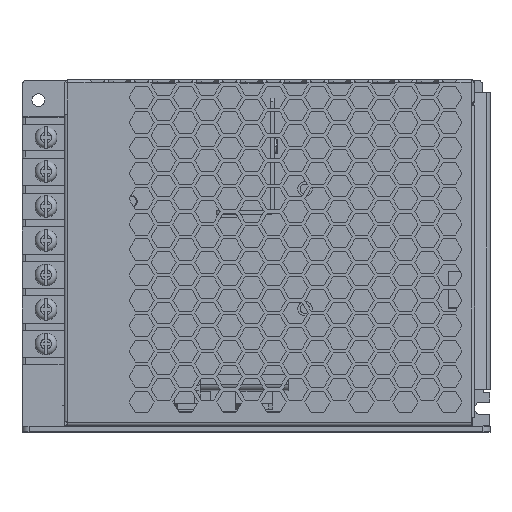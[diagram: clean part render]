
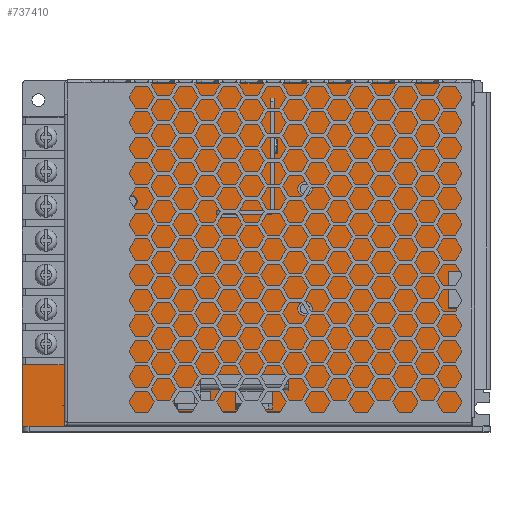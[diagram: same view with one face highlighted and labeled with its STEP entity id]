
A CAD part, top view. The second image highlights one B-rep face of the part: STEP entity #737410.
In plain terms, the highlighted planar face has unit normal (0, 0, 1).
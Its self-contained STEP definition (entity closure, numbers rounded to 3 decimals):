
#735620=CARTESIAN_POINT('',(0.,0.,0.));
#735630=DIRECTION('',(0.,0.,1.));
#735640=DIRECTION('',(1.,0.,0.));
#735650=AXIS2_PLACEMENT_3D('',#735620,#735630,#735640);
#735660=PLANE('',#735650);
#735670=CARTESIAN_POINT('',(-287.934,290.025,0.));
#735680=DIRECTION('',(-1.,0.,0.));
#735690=VECTOR('',#735680,1.);
#735700=LINE('',#735670,#735690);
#735710=CARTESIAN_POINT('',(-287.934,290.025,0.));
#735720=VERTEX_POINT('',#735710);
#735730=CARTESIAN_POINT('',(-299.417,290.025,0.));
#735740=VERTEX_POINT('',#735730);
#735750=EDGE_CURVE('',#735720,#735740,#735700,.T.);
#735760=ORIENTED_EDGE('',*,*,#735750,.T.);
#735770=CARTESIAN_POINT('',(-287.934,290.025,0.));
#735780=DIRECTION('',(0.,1.,0.));
#735790=VECTOR('',#735780,1.);
#735800=LINE('',#735770,#735790);
#735810=CARTESIAN_POINT('',(-287.934,299.025,0.));
#735820=VERTEX_POINT('',#735810);
#735830=EDGE_CURVE('',#735720,#735820,#735800,.T.);
#735840=ORIENTED_EDGE('',*,*,#735830,.F.);
#735850=CARTESIAN_POINT('',(-287.934,299.025,0.));
#735860=DIRECTION('',(1.,0.,0.));
#735870=VECTOR('',#735860,1.);
#735880=LINE('',#735850,#735870);
#735890=CARTESIAN_POINT('',(-177.417,299.025,0.));
#735900=VERTEX_POINT('',#735890);
#735910=EDGE_CURVE('',#735820,#735900,#735880,.T.);
#735920=ORIENTED_EDGE('',*,*,#735910,.F.);
#735930=CARTESIAN_POINT('',(-177.417,299.025,0.));
#735940=DIRECTION('',(0.,-1.,0.));
#735950=VECTOR('',#735940,1.);
#735960=LINE('',#735930,#735950);
#735970=CARTESIAN_POINT('',(-177.417,204.625,0.));
#735980=VERTEX_POINT('',#735970);
#735990=EDGE_CURVE('',#735900,#735980,#735960,.T.);
#736000=ORIENTED_EDGE('',*,*,#735990,.F.);
#736010=CARTESIAN_POINT('',(-177.417,204.625,0.));
#736020=DIRECTION('',(-1.,0.,0.));
#736030=VECTOR('',#736020,1.);
#736040=LINE('',#736010,#736030);
#736050=CARTESIAN_POINT('',(-187.222,204.625,0.));
#736060=VERTEX_POINT('',#736050);
#736070=EDGE_CURVE('',#735980,#736060,#736040,.T.);
#736080=ORIENTED_EDGE('',*,*,#736070,.F.);
#736090=CARTESIAN_POINT('',(-187.222,206.435,0.));
#736100=DIRECTION('',(0.,-1.,0.));
#736110=VECTOR('',#736100,1.);
#736120=LINE('',#736090,#736110);
#736130=CARTESIAN_POINT('',(-187.222,206.435,0.));
#736140=VERTEX_POINT('',#736130);
#736150=EDGE_CURVE('',#736140,#736060,#736120,.T.);
#736160=ORIENTED_EDGE('',*,*,#736150,.T.);
#736170=CARTESIAN_POINT('',(-194.112,206.435,0.));
#736180=DIRECTION('',(1.,0.,0.));
#736190=VECTOR('',#736180,1.);
#736200=LINE('',#736170,#736190);
#736210=CARTESIAN_POINT('',(-194.112,206.435,0.));
#736220=VERTEX_POINT('',#736210);
#736230=EDGE_CURVE('',#736220,#736140,#736200,.T.);
#736240=ORIENTED_EDGE('',*,*,#736230,.T.);
#736250=CARTESIAN_POINT('',(-194.112,204.625,0.));
#736260=DIRECTION('',(0.,1.,0.));
#736270=VECTOR('',#736260,1.);
#736280=LINE('',#736250,#736270);
#736290=CARTESIAN_POINT('',(-194.112,204.625,0.));
#736300=VERTEX_POINT('',#736290);
#736310=EDGE_CURVE('',#736300,#736220,#736280,.T.);
#736320=ORIENTED_EDGE('',*,*,#736310,.T.);
#736330=CARTESIAN_POINT('',(-194.112,204.625,0.));
#736340=DIRECTION('',(-1.,0.,0.));
#736350=VECTOR('',#736340,1.);
#736360=LINE('',#736330,#736350);
#736370=CARTESIAN_POINT('',(-224.167,204.625,0.));
#736380=VERTEX_POINT('',#736370);
#736390=EDGE_CURVE('',#736300,#736380,#736360,.T.);
#736400=ORIENTED_EDGE('',*,*,#736390,.F.);
#736410=CARTESIAN_POINT('',(-224.167,208.525,0.));
#736420=DIRECTION('',(0.,-1.,0.));
#736430=VECTOR('',#736420,1.);
#736440=LINE('',#736410,#736430);
#736450=CARTESIAN_POINT('',(-224.167,208.525,0.));
#736460=VERTEX_POINT('',#736450);
#736470=EDGE_CURVE('',#736460,#736380,#736440,.T.);
#736480=ORIENTED_EDGE('',*,*,#736470,.T.);
#736490=CARTESIAN_POINT('',(-264.167,208.525,0.));
#736500=DIRECTION('',(1.,0.,0.));
#736510=VECTOR('',#736500,1.);
#736520=LINE('',#736490,#736510);
#736530=CARTESIAN_POINT('',(-264.167,208.525,0.));
#736540=VERTEX_POINT('',#736530);
#736550=EDGE_CURVE('',#736540,#736460,#736520,.T.);
#736560=ORIENTED_EDGE('',*,*,#736550,.T.);
#736570=CARTESIAN_POINT('',(-264.167,204.625,0.));
#736580=DIRECTION('',(0.,1.,0.));
#736590=VECTOR('',#736580,1.);
#736600=LINE('',#736570,#736590);
#736610=CARTESIAN_POINT('',(-264.167,204.625,0.));
#736620=VERTEX_POINT('',#736610);
#736630=EDGE_CURVE('',#736620,#736540,#736600,.T.);
#736640=ORIENTED_EDGE('',*,*,#736630,.T.);
#736650=CARTESIAN_POINT('',(-264.167,204.625,0.));
#736660=DIRECTION('',(-1.,0.,0.));
#736670=VECTOR('',#736660,1.);
#736680=LINE('',#736650,#736670);
#736690=CARTESIAN_POINT('',(-299.417,204.625,0.));
#736700=VERTEX_POINT('',#736690);
#736710=EDGE_CURVE('',#736620,#736700,#736680,.T.);
#736720=ORIENTED_EDGE('',*,*,#736710,.F.);
#736730=CARTESIAN_POINT('',(-299.417,204.625,0.));
#736740=DIRECTION('',(0.,1.,0.));
#736750=VECTOR('',#736740,1.);
#736760=LINE('',#736730,#736750);
#736770=EDGE_CURVE('',#736700,#735740,#736760,.T.);
#736780=ORIENTED_EDGE('',*,*,#736770,.F.);
#736790=EDGE_LOOP('',(#736780,#736720,#736640,#736560,#736480,#736400,
#736320,#736240,#736160,#736080,#736000,#735920,#735840,#735760));
#736800=FACE_OUTER_BOUND('',#736790,.T.);
#736810=CARTESIAN_POINT('',(-269.667,266.525,
0.));
#736820=DIRECTION('',(0.,0.,-1.));
#736830=DIRECTION('',(1.,0.,0.));
#736840=AXIS2_PLACEMENT_3D('',#736810,#736820,#736830);
#736850=CIRCLE('',#736840,1.75);
#736860=CARTESIAN_POINT('',(-271.417,266.525,0.));
#736870=VERTEX_POINT('',#736860);
#736880=CARTESIAN_POINT('',(-267.917,266.525,
0.));
#736890=VERTEX_POINT('',#736880);
#736900=EDGE_CURVE('',#736870,#736890,#736850,.T.);
#736910=ORIENTED_EDGE('',*,*,#736900,.T.);
#736920=EDGE_CURVE('',#736890,#736870,#736850,.T.);
#736930=ORIENTED_EDGE('',*,*,#736920,.T.);
#736940=EDGE_LOOP('',(#736930,#736910));
#736950=FACE_BOUND('',#736940,.T.);
#736960=CARTESIAN_POINT('',(-221.667,237.025,
0.));
#736970=DIRECTION('',(0.,0.,-1.));
#736980=DIRECTION('',(1.,0.,0.));
#736990=AXIS2_PLACEMENT_3D('',#736960,#736970,#736980);
#737000=CIRCLE('',#736990,2.);
#737010=CARTESIAN_POINT('',(-219.667,237.025,0.));
#737020=VERTEX_POINT('',#737010);
#737030=CARTESIAN_POINT('',(-223.667,237.025,
0.));
#737040=VERTEX_POINT('',#737030);
#737050=EDGE_CURVE('',#737020,#737040,#737000,.T.);
#737060=ORIENTED_EDGE('',*,*,#737050,.T.);
#737070=EDGE_CURVE('',#737040,#737020,#737000,.T.);
#737080=ORIENTED_EDGE('',*,*,#737070,.T.);
#737090=EDGE_LOOP('',(#737080,#737060));
#737100=FACE_BOUND('',#737090,.T.);
#737110=CARTESIAN_POINT('',(-288.371,210.372,
0.));
#737120=DIRECTION('',(0.,0.,-1.));
#737130=DIRECTION('',(1.,0.,0.));
#737140=AXIS2_PLACEMENT_3D('',#737110,#737120,#737130);
#737150=CIRCLE('',#737140,0.062);
#737160=CARTESIAN_POINT('',(-288.433,210.372,
0.));
#737170=VERTEX_POINT('',#737160);
#737180=CARTESIAN_POINT('',(-288.308,210.372,
0.));
#737190=VERTEX_POINT('',#737180);
#737200=EDGE_CURVE('',#737170,#737190,#737150,.T.);
#737210=ORIENTED_EDGE('',*,*,#737200,.T.);
#737220=EDGE_CURVE('',#737190,#737170,#737150,.T.);
#737230=ORIENTED_EDGE('',*,*,#737220,.T.);
#737240=EDGE_LOOP('',(#737230,#737210));
#737250=FACE_BOUND('',#737240,.T.);
#737260=CARTESIAN_POINT('',(-221.667,270.025,
0.));
#737270=DIRECTION('',(0.,0.,-1.));
#737280=DIRECTION('',(1.,0.,0.));
#737290=AXIS2_PLACEMENT_3D('',#737260,#737270,#737280);
#737300=CIRCLE('',#737290,2.);
#737310=CARTESIAN_POINT('',(-223.667,270.025,0.));
#737320=VERTEX_POINT('',#737310);
#737330=CARTESIAN_POINT('',(-219.667,270.025,
0.));
#737340=VERTEX_POINT('',#737330);
#737350=EDGE_CURVE('',#737320,#737340,#737300,.T.);
#737360=ORIENTED_EDGE('',*,*,#737350,.T.);
#737370=EDGE_CURVE('',#737340,#737320,#737300,.T.);
#737380=ORIENTED_EDGE('',*,*,#737370,.T.);
#737390=EDGE_LOOP('',(#737380,#737360));
#737400=FACE_BOUND('',#737390,.T.);
#737410=ADVANCED_FACE('',(#736800,#736950,#737100,#737250,#737400),
#735660,.T.);
